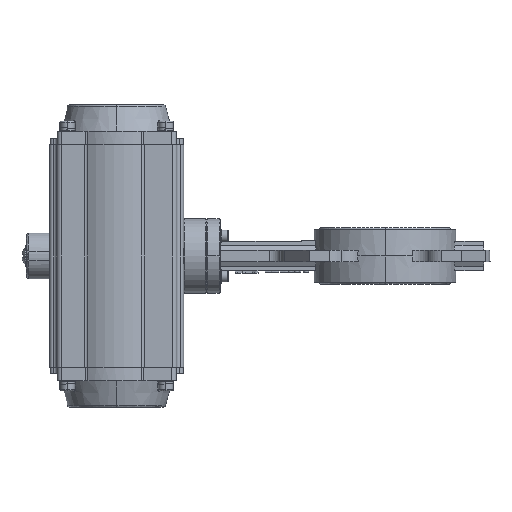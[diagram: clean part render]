
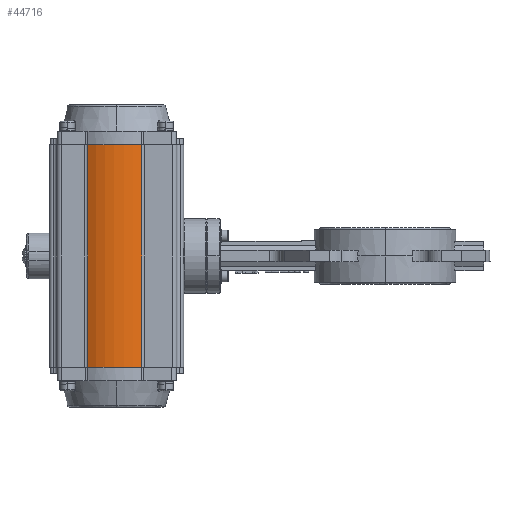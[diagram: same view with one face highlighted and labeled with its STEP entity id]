
A CAD part, left-side view. The second image highlights one B-rep face of the part: STEP entity #44716.
In plain terms, the highlighted cylindrical face has radius 50 mm (diameter 100 mm), a partial arc.
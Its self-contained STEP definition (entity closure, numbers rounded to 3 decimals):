
#10096 = CARTESIAN_POINT ( 'NONE',  ( -45., 212.706, -349.898 ) ) ;
#11485 = CARTESIAN_POINT ( 'NONE',  ( 0., 234.5, 97. ) ) ;
#11792 = LINE ( 'NONE', #10096, #94921 ) ;
#14144 = EDGE_LOOP ( 'NONE', ( #56874, #67492, #64210, #44397 ) ) ;
#16406 = DIRECTION ( 'NONE',  ( 0., 0., 1. ) ) ;
#17652 = CARTESIAN_POINT ( 'NONE',  ( -43.182, 259.706, -97. ) ) ;
#23063 = DIRECTION ( 'NONE',  ( 0., 0., 1. ) ) ;
#25811 = EDGE_CURVE ( 'NONE', #78578, #50358, #94844, .T. ) ;
#26209 = DIRECTION ( 'NONE',  ( 0., 0., 1. ) ) ;
#30415 = VECTOR ( 'NONE', #94573, 1000. ) ;
#33690 = CARTESIAN_POINT ( 'NONE',  ( -45., 212.706, -97. ) ) ;
#35888 = CIRCLE ( 'NONE', #95526, 50. ) ;
#36382 = DIRECTION ( 'NONE',  ( 1., 0., 0. ) ) ;
#36708 = EDGE_CURVE ( 'NONE', #78578, #37376, #99762, .T. ) ;
#37376 = VERTEX_POINT ( 'NONE', #17652 ) ;
#38179 = CARTESIAN_POINT ( 'NONE',  ( -43.182, 259.706, -97. ) ) ;
#43628 = EDGE_CURVE ( 'NONE', #37376, #61690, #35888, .T. ) ;
#44397 = ORIENTED_EDGE ( 'NONE', *, *, #78161, .T. ) ;
#44598 = AXIS2_PLACEMENT_3D ( 'NONE', #70574, #23063, #54708 ) ;
#44716 = ADVANCED_FACE ( 'NONE', ( #64695 ), #79819, .T. ) ;
#50358 = VERTEX_POINT ( 'NONE', #56147 ) ;
#54708 = DIRECTION ( 'NONE',  ( 1., 0., 0. ) ) ;
#56147 = CARTESIAN_POINT ( 'NONE',  ( -45., 212.706, 97. ) ) ;
#56874 = ORIENTED_EDGE ( 'NONE', *, *, #25811, .F. ) ;
#61690 = VERTEX_POINT ( 'NONE', #33690 ) ;
#64210 = ORIENTED_EDGE ( 'NONE', *, *, #43628, .T. ) ;
#64575 = CARTESIAN_POINT ( 'NONE',  ( 0., 234.5, -97. ) ) ;
#64695 = FACE_OUTER_BOUND ( 'NONE', #14144, .T. ) ;
#66194 = CARTESIAN_POINT ( 'NONE',  ( -43.182, 259.706, 97. ) ) ;
#67492 = ORIENTED_EDGE ( 'NONE', *, *, #36708, .T. ) ;
#70574 = CARTESIAN_POINT ( 'NONE',  ( 0., 234.5, -97. ) ) ;
#75782 = DIRECTION ( 'NONE',  ( 0., 0., 1. ) ) ;
#78161 = EDGE_CURVE ( 'NONE', #61690, #50358, #11792, .T. ) ;
#78578 = VERTEX_POINT ( 'NONE', #66194 ) ;
#79819 = CYLINDRICAL_SURFACE ( 'NONE', #44598, 50. ) ;
#90975 = DIRECTION ( 'NONE',  ( 1., 0., 0. ) ) ;
#94573 = DIRECTION ( 'NONE',  ( 0., 0., -1. ) ) ;
#94844 = CIRCLE ( 'NONE', #96792, 50. ) ;
#94921 = VECTOR ( 'NONE', #26209, 1000. ) ;
#95526 = AXIS2_PLACEMENT_3D ( 'NONE', #64575, #16406, #90975 ) ;
#96792 = AXIS2_PLACEMENT_3D ( 'NONE', #11485, #75782, #36382 ) ;
#99762 = LINE ( 'NONE', #38179, #30415 ) ;
